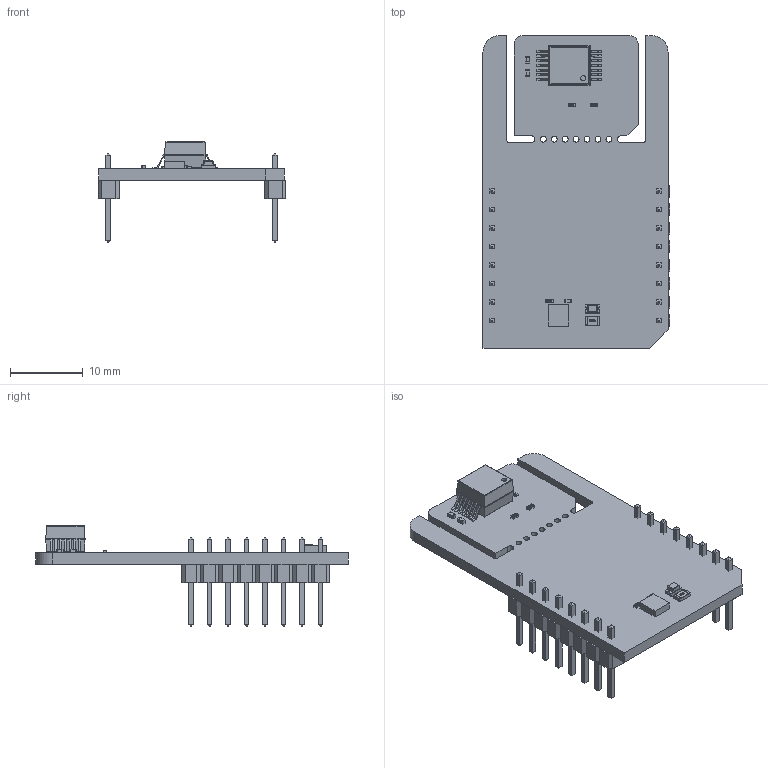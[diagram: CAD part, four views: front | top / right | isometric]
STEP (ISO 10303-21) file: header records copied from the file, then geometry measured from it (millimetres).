
FILE_DESCRIPTION(('Open CASCADE Model'),'2;1');
FILE_NAME('Open CASCADE Shape Model','2025-12-18T14:28:56',('Author'),( 'Open CASCADE'),'Open CASCADE STEP processor 6.8','Open CASCADE 6.8' ,'Unknown');
FILE_SCHEMA(('AUTOMOTIVE_DESIGN { 1 0 10303 214 1 1 1 1 }'));
Length unit declared in the file: millimetre
Products named in the file (28): PCB; Board; C3; User_Library-SMD_CAPACITOR0402; MBD1; Header_1x8; Free-Models; 1240637040; User_Library-PinHeaderX5-1_PinHeaderX5_Body_1; User_Library-PinHeaderX5-1_PinHeaderX5_Pins_1; U1; 1044280480; Extruded; C1; R2; User_Library-R_0402; LD1; led_0805_green; R1; User_Library-R_0805; U2; TCIXTMA1; Body; PinsArrayLR; R5; R6; C2
Assembly tree (33 placements, depth 7):
  PCB
    Board
    C3
      User_Library-SMD_CAPACITOR0402
    MBD1
      Header_1x8  x2
        PCB
          Free-Models
            1240637040  x2
              User_Library-PinHeaderX5-1_PinHeaderX5_Body_1
              User_Library-PinHeaderX5-1_PinHeaderX5_Pins_1
    U1
      1044280480
        Extruded
    C1
      User_Library-SMD_CAPACITOR0402
    R2
      User_Library-R_0402
    LD1
      led_0805_green
    R1
      User_Library-R_0805
    U2
      TCIXTMA1
        Body
        PinsArrayLR
    R5
      User_Library-R_0402
    R6
      User_Library-R_0402
    C2
      User_Library-SMD_CAPACITOR0402
Bounding box: 25.78 x 42.93 x 13.81 mm (x, y, z)
Volume: 2245.5 mm3; surface area: 3982.2 mm2
Topology: 45 solids, 45 shells, 1236 faces, 3092 edges, 1956 vertices
Faces by surface type: plane 963, cylinder 125, bspline 120, sphere 28
Full cylindrical faces by diameter (mm): 0.713 x1, 0.8 x7
Entity records: 25942 total; most frequent: CARTESIAN_POINT 7684, ORIENTED_EDGE 3176, DIRECTION 2842, EDGE_CURVE 1588, LINE 1270, VECTOR 1270, VERTEX_POINT 1028, AXIS2_PLACEMENT_3D 786
